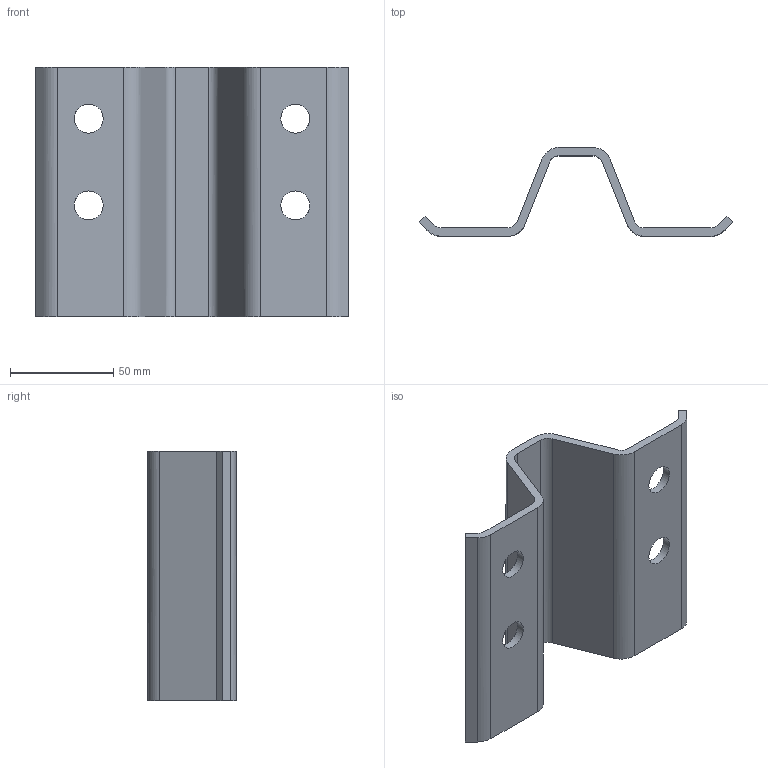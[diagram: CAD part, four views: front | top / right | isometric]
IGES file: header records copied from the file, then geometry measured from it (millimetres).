
Global section: file name: ZC140; native system: Autodesk RealDWG; preprocessor: Autodesk Translation Framework DWG producer (atf_dwg_producer); organization: unknown; date: 20230703.111920; units: centimetre
Bounding box: 151.72 x 43 x 121 mm (x, y, z)
Volume: 95219.3 mm3; surface area: 50896.5 mm2
Topology: 1 solids, 1 shells, 34 faces, 104 edges, 72 vertices
Faces by surface type: bspline 34
